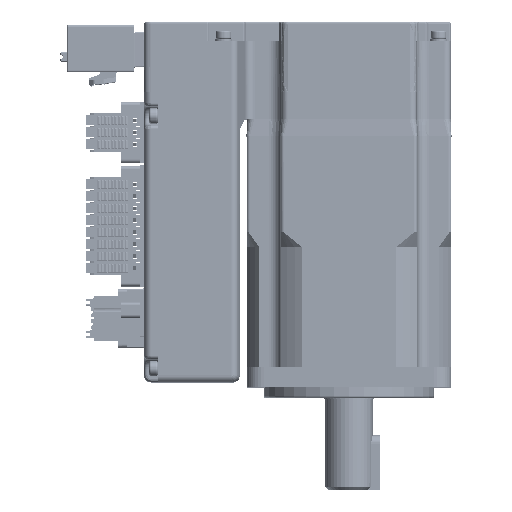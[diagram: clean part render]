
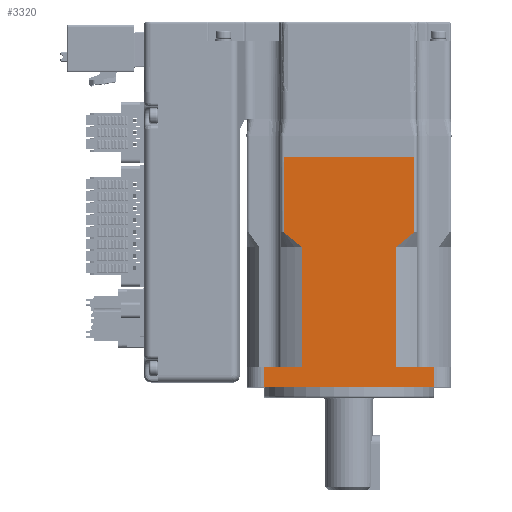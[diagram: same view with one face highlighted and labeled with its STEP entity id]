
A CAD part, top view. The second image highlights one B-rep face of the part: STEP entity #3320.
In plain terms, the highlighted planar face has unit normal (0, 0, 1).
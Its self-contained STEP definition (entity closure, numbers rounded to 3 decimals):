
#131=DIRECTION('',(-1.,0.,0.));
#132=VECTOR('',#131,38.);
#133=CARTESIAN_POINT('',(19.,67.5,30.));
#134=LINE('',#133,#132);
#321=DIRECTION('',(0.,-1.,0.));
#322=VECTOR('',#321,22.152);
#323=CARTESIAN_POINT('',(-19.,67.5,30.));
#324=LINE('',#323,#322);
#352=DIRECTION('',(0.,-1.,0.));
#353=VECTOR('',#352,35.);
#354=CARTESIAN_POINT('',(-13.748,41.,30.));
#355=LINE('',#354,#353);
#360=DIRECTION('',(1.,0.,0.));
#361=VECTOR('',#360,11.252);
#362=CARTESIAN_POINT('',(13.748,6.,30.));
#363=LINE('',#362,#361);
#364=DIRECTION('',(1.,0.,0.));
#365=VECTOR('',#364,11.252);
#366=CARTESIAN_POINT('',(-25.,6.,30.));
#367=LINE('',#366,#365);
#368=CARTESIAN_POINT('',(-13.748,41.,30.));
#369=CARTESIAN_POINT('',(-14.354,41.437,30.));
#370=CARTESIAN_POINT('',(-15.549,42.347,30.));
#371=CARTESIAN_POINT('',(-17.293,43.799,30.));
#372=CARTESIAN_POINT('',(-18.434,44.824,30.));
#373=CARTESIAN_POINT('',(-19.,45.348,30.));
#375=CARTESIAN_POINT('',(19.,45.348,30.));
#376=CARTESIAN_POINT('',(18.431,44.821,30.));
#377=CARTESIAN_POINT('',(17.286,43.794,30.));
#378=CARTESIAN_POINT('',(15.541,42.341,30.));
#379=CARTESIAN_POINT('',(14.351,41.435,30.));
#380=CARTESIAN_POINT('',(13.748,41.,30.));
#386=DIRECTION('',(0.,1.,0.));
#387=VECTOR('',#386,35.);
#388=CARTESIAN_POINT('',(13.748,6.,30.));
#389=LINE('',#388,#387);
#401=DIRECTION('',(0.,1.,0.));
#402=VECTOR('',#401,22.152);
#403=CARTESIAN_POINT('',(19.,45.348,30.));
#404=LINE('',#403,#402);
#816=DIRECTION('',(0.,-1.,0.));
#817=VECTOR('',#816,6.);
#818=CARTESIAN_POINT('',(-25.,6.,30.));
#819=LINE('',#818,#817);
#824=DIRECTION('',(1.,0.,0.));
#825=VECTOR('',#824,50.);
#826=CARTESIAN_POINT('',(-25.,0.,30.));
#827=LINE('',#826,#825);
#914=DIRECTION('',(0.,1.,0.));
#915=VECTOR('',#914,6.);
#916=CARTESIAN_POINT('',(25.,0.,30.));
#917=LINE('',#916,#915);
#2640=CARTESIAN_POINT('',(-19.,67.5,30.));
#2642=VERTEX_POINT('',#2640);
#2686=CARTESIAN_POINT('',(19.,67.5,30.));
#2687=VERTEX_POINT('',#2686);
#2702=CARTESIAN_POINT('',(-19.,45.348,30.));
#2703=VERTEX_POINT('',#2702);
#2710=CARTESIAN_POINT('',(-13.748,41.,30.));
#2711=CARTESIAN_POINT('',(-13.748,6.,30.));
#2712=VERTEX_POINT('',#2710);
#2713=VERTEX_POINT('',#2711);
#2714=CARTESIAN_POINT('',(13.748,6.,30.));
#2715=CARTESIAN_POINT('',(13.748,41.,30.));
#2716=VERTEX_POINT('',#2714);
#2717=VERTEX_POINT('',#2715);
#2718=CARTESIAN_POINT('',(25.,6.,30.));
#2719=VERTEX_POINT('',#2718);
#2720=CARTESIAN_POINT('',(25.,0.,30.));
#2721=VERTEX_POINT('',#2720);
#2722=CARTESIAN_POINT('',(-25.,0.,30.));
#2723=VERTEX_POINT('',#2722);
#2724=CARTESIAN_POINT('',(-25.,6.,30.));
#2725=VERTEX_POINT('',#2724);
#2726=CARTESIAN_POINT('',(19.,45.348,30.));
#2727=VERTEX_POINT('',#2726);
#3292=CARTESIAN_POINT('',(30.,67.5,30.));
#3293=DIRECTION('',(0.,0.,-1.));
#3294=DIRECTION('',(0.,1.,0.));
#3295=AXIS2_PLACEMENT_3D('',#3292,#3293,#3294);
#3296=PLANE('',#3295);
#3298=ORIENTED_EDGE('',*,*,#3297,.F.);
#3300=ORIENTED_EDGE('',*,*,#3299,.T.);
#3302=ORIENTED_EDGE('',*,*,#3301,.F.);
#3304=ORIENTED_EDGE('',*,*,#3303,.F.);
#3306=ORIENTED_EDGE('',*,*,#3305,.F.);
#3308=ORIENTED_EDGE('',*,*,#3307,.T.);
#3309=ORIENTED_EDGE('',*,*,#3282,.F.);
#3311=ORIENTED_EDGE('',*,*,#3310,.T.);
#3312=ORIENTED_EDGE('',*,*,#3252,.F.);
#3313=ORIENTED_EDGE('',*,*,#3187,.F.);
#3315=ORIENTED_EDGE('',*,*,#3314,.F.);
#3317=ORIENTED_EDGE('',*,*,#3316,.T.);
#3318=EDGE_LOOP('',(#3298,#3300,#3302,#3304,#3306,#3308,#3309,#3311,#3312,#3313,
#3315,#3317));
#3319=FACE_OUTER_BOUND('',#3318,.F.);
#3320=ADVANCED_FACE('',(#3319),#3296,.F.);
#374=B_SPLINE_CURVE_WITH_KNOTS('',3,(#368,#369,#370,#371,#372,#373),
.UNSPECIFIED.,.F.,.F.,(4,1,1,4),(0.,0.333,0.667,1.),
.UNSPECIFIED.);
#381=B_SPLINE_CURVE_WITH_KNOTS('',3,(#375,#376,#377,#378,#379,#380),
.UNSPECIFIED.,.F.,.F.,(4,1,1,4),(0.,0.333,0.667,1.),
.UNSPECIFIED.);
#3187=EDGE_CURVE('',#2687,#2642,#134,.T.);
#3252=EDGE_CURVE('',#2642,#2703,#324,.T.);
#3282=EDGE_CURVE('',#2712,#2713,#355,.T.);
#3297=EDGE_CURVE('',#2716,#2717,#389,.T.);
#3299=EDGE_CURVE('',#2716,#2719,#363,.T.);
#3301=EDGE_CURVE('',#2721,#2719,#917,.T.);
#3303=EDGE_CURVE('',#2723,#2721,#827,.T.);
#3305=EDGE_CURVE('',#2725,#2723,#819,.T.);
#3307=EDGE_CURVE('',#2725,#2713,#367,.T.);
#3310=EDGE_CURVE('',#2712,#2703,#374,.T.);
#3314=EDGE_CURVE('',#2727,#2687,#404,.T.);
#3316=EDGE_CURVE('',#2727,#2717,#381,.T.);
